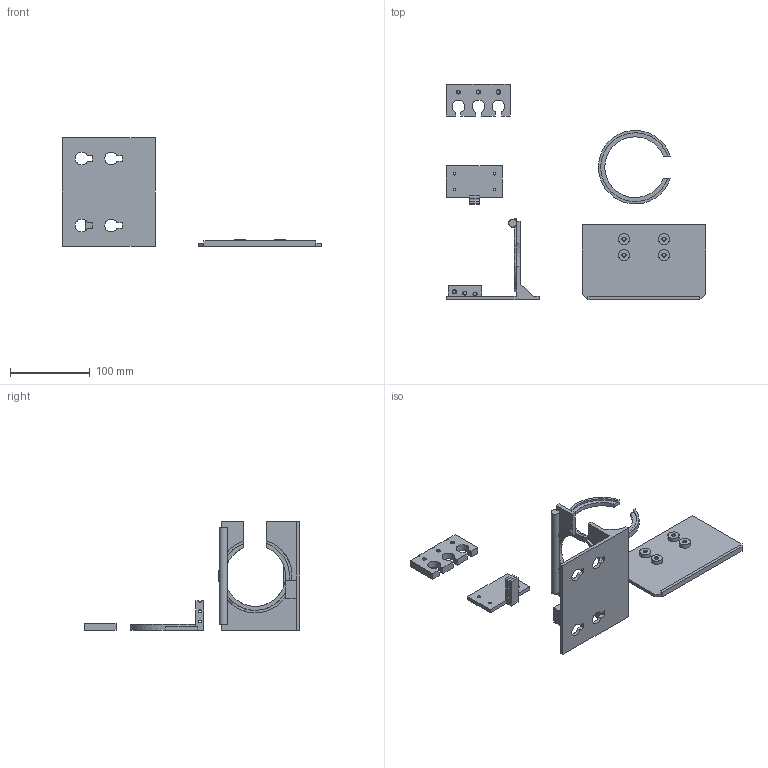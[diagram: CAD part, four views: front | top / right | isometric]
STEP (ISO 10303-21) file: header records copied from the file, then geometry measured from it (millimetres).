
FILE_DESCRIPTION(('Open CASCADE Model'),'2;1');
FILE_NAME('Open CASCADE Shape Model','2026-07-27T19:42:16',('Author'),( 'Open CASCADE'),'Open CASCADE STEP processor 7.9','Open CASCADE 7.9' ,'Unknown');
FILE_SCHEMA(('AUTOMOTIVE_DESIGN { 1 0 10303 214 1 1 1 1 }'));
Length unit declared in the file: millimetre
Products named in the file (6): Open CASCADE STEP translator 7.9 1; Open CASCADE STEP translator 7.9 1.1; Open CASCADE STEP translator 7.9 1.2; Open CASCADE STEP translator 7.9 1.3; Open CASCADE STEP translator 7.9 1.4; Open CASCADE STEP translator 7.9 1.5
Assembly tree (5 placements, depth 2):
  Open CASCADE STEP translator 7.9 1
    Open CASCADE STEP translator 7.9 1.1
    Open CASCADE STEP translator 7.9 1.2
    Open CASCADE STEP translator 7.9 1.3
    Open CASCADE STEP translator 7.9 1.4
    Open CASCADE STEP translator 7.9 1.5
Bounding box: 324 x 270 x 136 mm (x, y, z)
Volume: 256320.3 mm3; surface area: 112398 mm2
Topology: 5 solids, 5 shells, 172 faces, 409 edges, 272 vertices
Faces by surface type: plane 117, cylinder 55
Full cylindrical faces by diameter (mm): 3.5 x6, 4 x1, 4.2 x8, 4.4 x1, 5 x1, 5.2 x7, 5.4 x1, 14 x4
Entity records: 10774 total; most frequent: CARTESIAN_POINT 2149, DIRECTION 1649, LINE 973, VECTOR 973, ORIENTED_EDGE 818, PCURVE 818, DEFINITIONAL_REPRESENTATION 818, EDGE_CURVE 409
